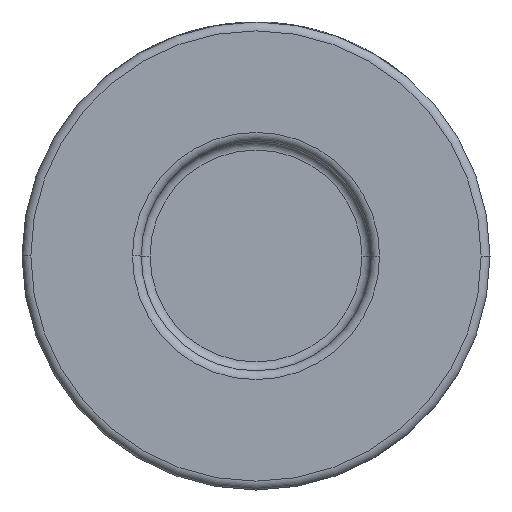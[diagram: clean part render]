
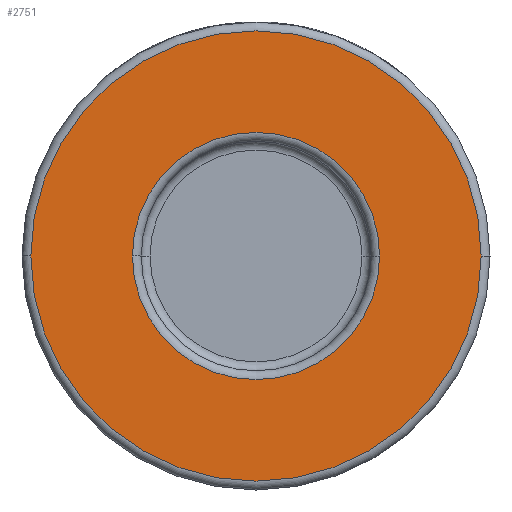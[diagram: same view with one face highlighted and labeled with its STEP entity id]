
A CAD part, front view. The second image highlights one B-rep face of the part: STEP entity #2751.
In plain terms, the highlighted planar face has unit normal (0, -1, 0).
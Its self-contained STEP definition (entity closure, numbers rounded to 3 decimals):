
#155 = CARTESIAN_POINT ( 'NONE',  ( -25.5, -19., 0. ) ) ;
#244 = AXIS2_PLACEMENT_3D ( 'NONE', #417, #1768, #3158 ) ;
#247 = FACE_OUTER_BOUND ( 'NONE', #2989, .T. ) ;
#287 = DIRECTION ( 'NONE',  ( 1., 0., 0. ) ) ;
#388 = ORIENTED_EDGE ( 'NONE', *, *, #1399, .T. ) ;
#394 = CIRCLE ( 'NONE', #244, 14. ) ;
#417 = CARTESIAN_POINT ( 'NONE',  ( 0., -19., 0. ) ) ;
#495 = DIRECTION ( 'NONE',  ( 1., 0., 0. ) ) ;
#536 = VERTEX_POINT ( 'NONE', #2875 ) ;
#564 = CIRCLE ( 'NONE', #1295, 14. ) ;
#889 = ORIENTED_EDGE ( 'NONE', *, *, #3146, .T. ) ;
#1168 = ORIENTED_EDGE ( 'NONE', *, *, #1806, .T. ) ;
#1207 = DIRECTION ( 'NONE',  ( 0., -1., 0. ) ) ;
#1295 = AXIS2_PLACEMENT_3D ( 'NONE', #1998, #2016, #287 ) ;
#1297 = DIRECTION ( 'NONE',  ( 0., -1., 0. ) ) ;
#1338 = EDGE_CURVE ( 'NONE', #3617, #1803, #394, .T. ) ;
#1399 = EDGE_CURVE ( 'NONE', #1906, #536, #2802, .T. ) ;
#1639 = FACE_BOUND ( 'NONE', #3884, .T. ) ;
#1768 = DIRECTION ( 'NONE',  ( 0., 1., 0. ) ) ;
#1803 = VERTEX_POINT ( 'NONE', #2626 ) ;
#1806 = EDGE_CURVE ( 'NONE', #536, #1906, #3243, .T. ) ;
#1906 = VERTEX_POINT ( 'NONE', #155 ) ;
#1998 = CARTESIAN_POINT ( 'NONE',  ( 0., -19., 0. ) ) ;
#2016 = DIRECTION ( 'NONE',  ( 0., 1., 0. ) ) ;
#2626 = CARTESIAN_POINT ( 'NONE',  ( 14., -19., 0. ) ) ;
#2688 = DIRECTION ( 'NONE',  ( 1., 0., 0. ) ) ;
#2751 = ADVANCED_FACE ( 'NONE', ( #1639, #247 ), #3024, .T. ) ;
#2802 = CIRCLE ( 'NONE', #4066, 25.5 ) ;
#2875 = CARTESIAN_POINT ( 'NONE',  ( 25.5, -19., 0. ) ) ;
#2936 = CARTESIAN_POINT ( 'NONE',  ( 0., -19., 0. ) ) ;
#2970 = AXIS2_PLACEMENT_3D ( 'NONE', #4424, #1297, #2688 ) ;
#2989 = EDGE_LOOP ( 'NONE', ( #1168, #388 ) ) ;
#3024 = PLANE ( 'NONE',  #2970 ) ;
#3146 = EDGE_CURVE ( 'NONE', #1803, #3617, #564, .T. ) ;
#3158 = DIRECTION ( 'NONE',  ( 1., 0., 0. ) ) ;
#3243 = CIRCLE ( 'NONE', #3834, 25.5 ) ;
#3571 = DIRECTION ( 'NONE',  ( 0., -1., 0. ) ) ;
#3617 = VERTEX_POINT ( 'NONE', #3916 ) ;
#3649 = DIRECTION ( 'NONE',  ( 1., 0., 0. ) ) ;
#3834 = AXIS2_PLACEMENT_3D ( 'NONE', #4289, #1207, #495 ) ;
#3884 = EDGE_LOOP ( 'NONE', ( #889, #4166 ) ) ;
#3916 = CARTESIAN_POINT ( 'NONE',  ( -14., -19., 0. ) ) ;
#4066 = AXIS2_PLACEMENT_3D ( 'NONE', #2936, #3571, #3649 ) ;
#4166 = ORIENTED_EDGE ( 'NONE', *, *, #1338, .T. ) ;
#4289 = CARTESIAN_POINT ( 'NONE',  ( 0., -19., 0. ) ) ;
#4424 = CARTESIAN_POINT ( 'NONE',  ( 26.5, -19., 0. ) ) ;
